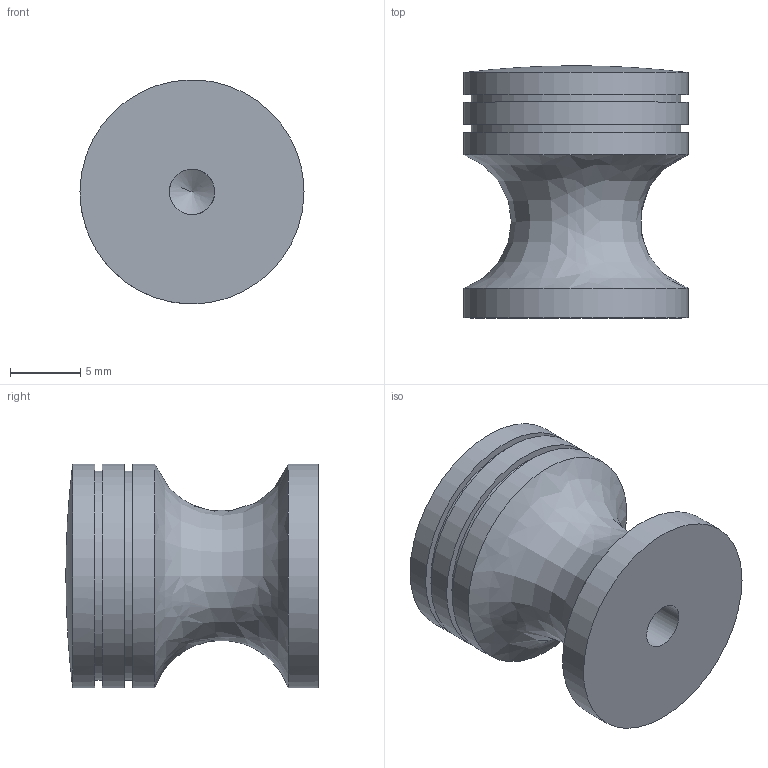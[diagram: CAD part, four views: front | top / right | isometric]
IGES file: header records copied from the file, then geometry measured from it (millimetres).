
Global section: file name: DR_A-C2-16; native system: Autodesk Inventor 2015; preprocessor: unknown; author: Administrator; date: 20170707.101603; units: millimetre
Bounding box: 16 x 18 x 15.98 mm (x, y, z)
Volume: 2498.2 mm3; surface area: 1442 mm2
Topology: 1 solids, 1 shells, 15 faces, 43 edges, 33 vertices
Faces by surface type: bspline 15
